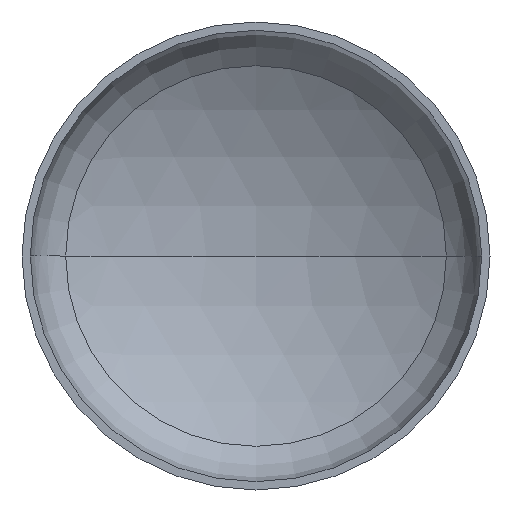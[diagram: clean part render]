
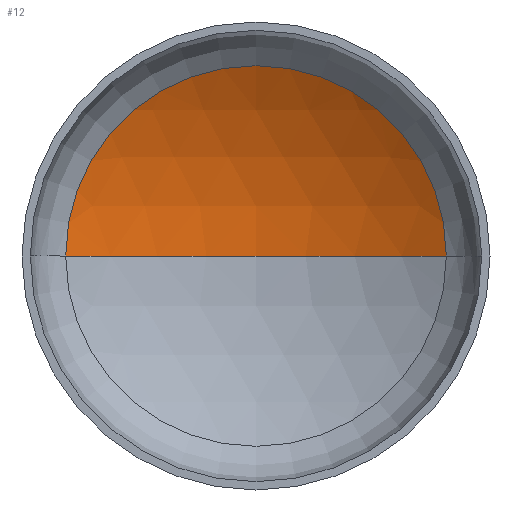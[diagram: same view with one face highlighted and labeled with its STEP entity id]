
A CAD part, front view. The second image highlights one B-rep face of the part: STEP entity #12.
In plain terms, the highlighted spherical face has radius 4400 mm.
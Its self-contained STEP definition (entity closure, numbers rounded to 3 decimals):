
#5 = DIRECTION ( 'NONE',  ( 0., 0., 1. ) ) ;
#12 = ADVANCED_FACE ( 'NONE', ( #292 ), #214, .F. ) ;
#32 = VERTEX_POINT ( 'NONE', #151 ) ;
#38 = VERTEX_POINT ( 'NONE', #267 ) ;
#47 = AXIS2_PLACEMENT_3D ( 'NONE', #289, #353, #260 ) ;
#69 = AXIS2_PLACEMENT_3D ( 'NONE', #308, #145, #334 ) ;
#73 = CIRCLE ( 'NONE', #358, 4400. ) ;
#79 = VERTEX_POINT ( 'NONE', #350 ) ;
#95 = EDGE_LOOP ( 'NONE', ( #376, #370, #297 ) ) ;
#126 = AXIS2_PLACEMENT_3D ( 'NONE', #199, #389, #227 ) ;
#145 = DIRECTION ( 'NONE',  ( 0., 0., -1. ) ) ;
#151 = CARTESIAN_POINT ( 'NONE',  ( 0., 1438.501, 0. ) ) ;
#199 = CARTESIAN_POINT ( 'NONE',  ( 0., 827.698, 0. ) ) ;
#214 = SPHERICAL_SURFACE ( 'NONE', #47, 4400. ) ;
#225 = CARTESIAN_POINT ( 'NONE',  ( 0., -2961.499, 0. ) ) ;
#227 = DIRECTION ( 'NONE',  ( 1., 0., 0. ) ) ;
#229 = CIRCLE ( 'NONE', #126, 2236.512 ) ;
#254 = DIRECTION ( 'NONE',  ( 1., 0., 0. ) ) ;
#260 = DIRECTION ( 'NONE',  ( -1., 0., 0. ) ) ;
#267 = CARTESIAN_POINT ( 'NONE',  ( -2236.512, 827.698, 0. ) ) ;
#273 = EDGE_CURVE ( 'NONE', #32, #38, #73, .T. ) ;
#289 = CARTESIAN_POINT ( 'NONE',  ( 0., -2961.499, 0. ) ) ;
#292 = FACE_OUTER_BOUND ( 'NONE', #95, .T. ) ;
#297 = ORIENTED_EDGE ( 'NONE', *, *, #327, .T. ) ;
#308 = CARTESIAN_POINT ( 'NONE',  ( 0., -2961.499, 0. ) ) ;
#314 = EDGE_CURVE ( 'NONE', #32, #79, #373, .T. ) ;
#327 = EDGE_CURVE ( 'NONE', #79, #38, #229, .T. ) ;
#334 = DIRECTION ( 'NONE',  ( -1., 0., 0. ) ) ;
#350 = CARTESIAN_POINT ( 'NONE',  ( 2236.512, 827.698, 0. ) ) ;
#353 = DIRECTION ( 'NONE',  ( 0., 0., -1. ) ) ;
#358 = AXIS2_PLACEMENT_3D ( 'NONE', #225, #5, #254 ) ;
#370 = ORIENTED_EDGE ( 'NONE', *, *, #314, .T. ) ;
#373 = CIRCLE ( 'NONE', #69, 4400. ) ;
#376 = ORIENTED_EDGE ( 'NONE', *, *, #273, .F. ) ;
#389 = DIRECTION ( 'NONE',  ( 0., -1., 0. ) ) ;
